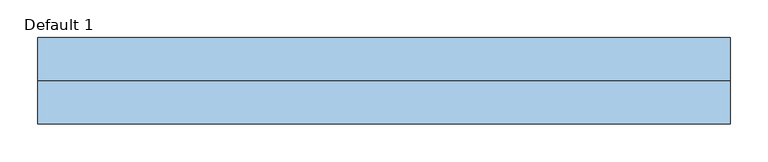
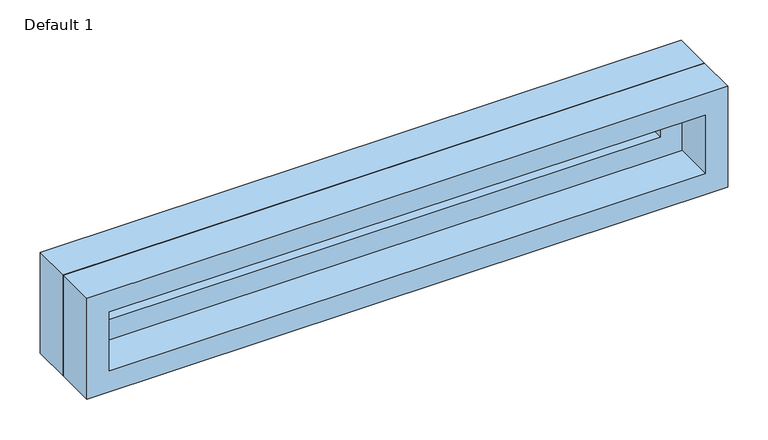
"""IFC4 building model written with IfcOpenShell, lengths in millimetres: window geometry, Planitar-Fixed : Default 1."""

from ifc_helpers import new_model, si_unit, frame, origin, place, context, project, spatial, polyline, outline, extrude, source, transform, mapped, element, save


def default_1_6da1564c(model_context):
    return source(origin(), model_context, "Body", "SweptSolid", [
        extrude(outline(polyline([(1047.8, -438.2), (933.4, -438.2), (933.4, 438.2), (1047.8, 438.2), (1047.8, -438.2)]), holes=[polyline([(1003.8, -394.2), (1003.8, 394.2), (977.4, 394.2), (977.4, -394.2), (1003.8, -394.2)])]), frame((0.0, 13.45, 0.0), z_axis=(0.0, 1.0, 0.0), x_axis=(0.0, 0.0, 1.0)), (0.0, 0.0, 1.0), 44.0),
        extrude(outline(polyline([(1066.8, -457.2), (914.4, -457.2), (914.4, 457.2), (1066.8, 457.2), (1066.8, -457.2)]), holes=[polyline([(1047.8, -438.2), (1047.8, 438.2), (933.4, 438.2), (933.4, -438.2), (1047.8, -438.2)])]), frame((0.0, 13.45, 0.0), z_axis=(0.0, 1.0, 0.0), x_axis=(0.0, 0.0, 1.0)), (0.0, 0.0, 1.0), 56.7),
        extrude(outline(polyline([(1066.8, -457.2), (914.4, -457.2), (914.4, 457.2), (1066.8, 457.2), (1066.8, -457.2)]), holes=[polyline([(1034.8, -425.2), (1034.8, 425.2), (946.4, 425.2), (946.4, -425.2), (1034.8, -425.2)])]), frame((0.0, -44.15, 0.0), z_axis=(0.0, 1.0, 0.0), x_axis=(0.0, 0.0, 1.0)), (0.0, 0.0, 1.0), 57.6),
        extrude(outline(polyline([(-394.2, 41.45), (394.2, 41.45), (394.2, 29.45), (-394.2, 29.45), (-394.2, 41.45)])), frame((0.0, 0.0, 977.4), z_axis=(0.0, 0.0, 1.0), x_axis=(1.0, 0.0, 0.0)), (0.0, 0.0, 1.0), 26.4),
    ])


if __name__ == "__main__":
    model = new_model("IFC4")
    model_context = context("Model", 3, world=origin())
    ifc_project = project(units=[si_unit("LENGTHUNIT", "METRE", prefix="MILLI")], contexts=[model_context])
    site = spatial("IfcSite", under=ifc_project)
    building = spatial("IfcBuilding", under=site)
    placement = place(None, origin())
    default_1_shape = default_1_6da1564c(model_context)
    element("IfcWindow", 1, ObjectType="Planitar-Fixed : Default 1", at=placement, inside=building, context=model_context, shape_type="MappedRepresentation", body=[
        mapped(default_1_shape, transform((0.0, 0.0, 0.0), x_axis=(1.0, 0.0, 0.0), y_axis=(0.0, 1.0, 0.0), z_axis=(0.0, 0.0, 1.0))),
    ])
    save(model, "model.ifc")
